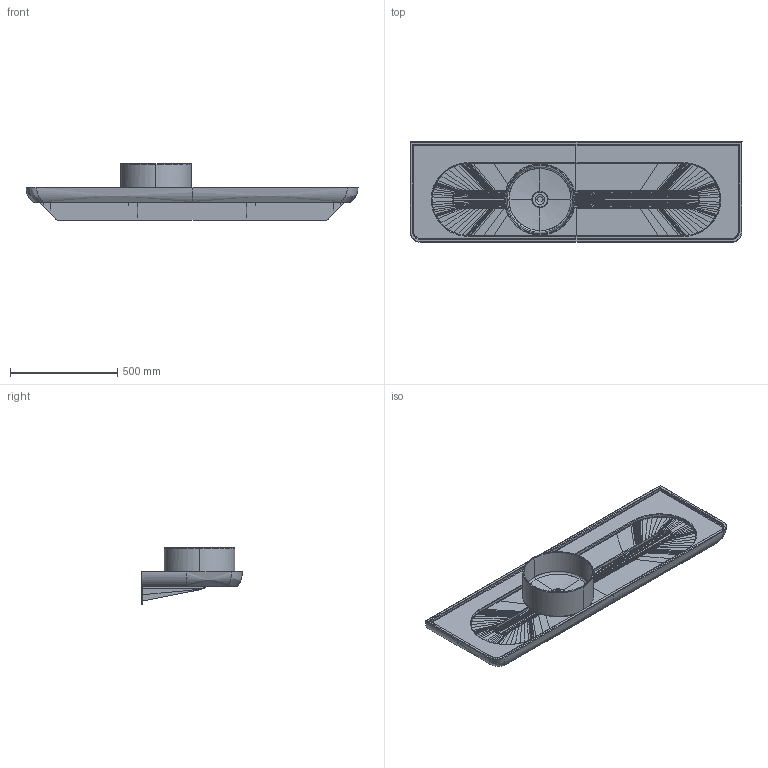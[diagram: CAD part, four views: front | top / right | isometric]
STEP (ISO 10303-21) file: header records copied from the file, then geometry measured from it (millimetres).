
FILE_DESCRIPTION(/* description */ (''),/* implementation_level */ '2;1');
FILE_NAME(/* name */ 'MEDITE~1',/* time_stamp */ '2023-12-10T17:58:03+01:00',/* author */ (''),/* organization */ (''),/* preprocessor_version */ 'ST-DEVELOPER v16.5',/* originating_system */ '',/* authorisation */ '');
FILE_SCHEMA (('CONFIG_CONTROL_DESIGN'));
Products named in the file (1): Document
Bounding box: 1545.12 x 468.03 x 263.53 mm (x, y, z)
Volume: 3973368.6 mm3; surface area: 2905251.5 mm2
Topology: 10 solids, 13 shells, 2773 faces, 6615 edges, 3817 vertices
Faces by surface type: bspline 2198, cylinder 378, plane 197
Entity records: 206768 total; most frequent: CARTESIAN_POINT 165566, ORIENTED_EDGE 13122, EDGE_CURVE 6595, B_SPLINE_CURVE_WITH_KNOTS 5520, VERTEX_POINT 3821, EDGE_LOOP 2798, ADVANCED_FACE 2771, FACE_OUTER_BOUND 2771
